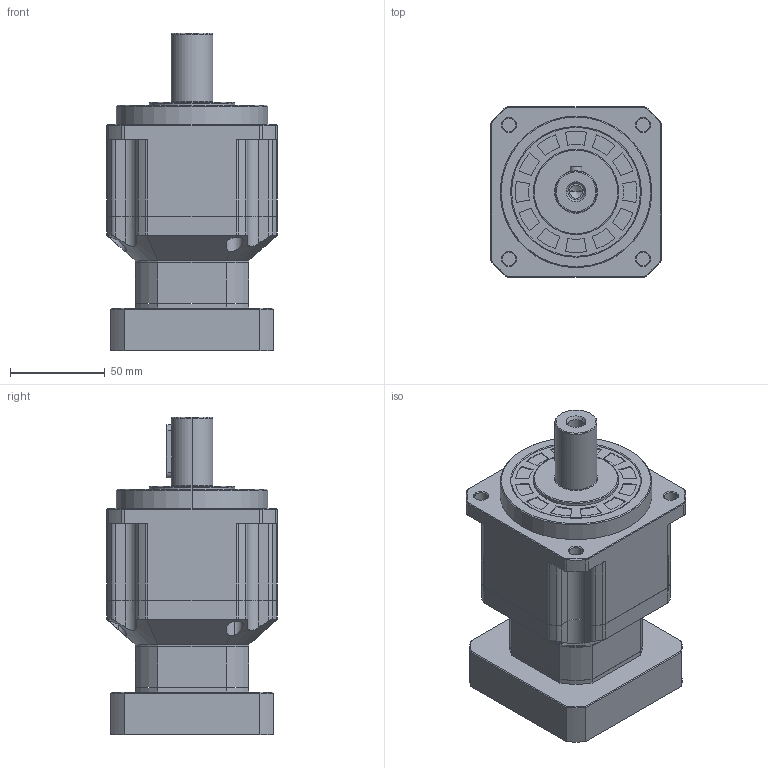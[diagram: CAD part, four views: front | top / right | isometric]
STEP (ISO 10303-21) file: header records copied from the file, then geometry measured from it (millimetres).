
FILE_DESCRIPTION(/* description */ (''),/* implementation_level */ '2;1');
FILE_NAME(/* name */ 'FAB090_40_14_73.02x25xM5（98.5）.step',/* time_stamp */ '2020-07-13T16:44:17+08:00',/* author */ (''),/* organization */ (''),/* preprocessor_version */ 'ST-DEVELOPER v16',/* originating_system */ 'SIEMENS PLM Software NX 10.0',/* authorisation */ '');
FILE_SCHEMA (('AUTOMOTIVE_DESIGN { 1 0 10303 214 3 1 1 1 }'));
Length unit declared in the file: millimetre
Products named in the file (1): FAB090_L2_14_73.02x25xM6（98.5）_stp
Bounding box: 90 x 90 x 167.5 mm (x, y, z)
Volume: 760342.6 mm3; surface area: 102125 mm2
Topology: 4 solids, 4 shells, 448 faces, 1118 edges, 725 vertices
Faces by surface type: plane 210, cylinder 186, cone 40, torus 8, bspline 4
Full cylindrical faces by diameter (mm): 4.2 x4
Entity records: 13570 total; most frequent: CARTESIAN_POINT 2682, DIRECTION 2320, ORIENTED_EDGE 2200, EDGE_CURVE 1100, AXIS2_PLACEMENT_3D 842, VERTEX_POINT 721, LINE 636, VECTOR 636
